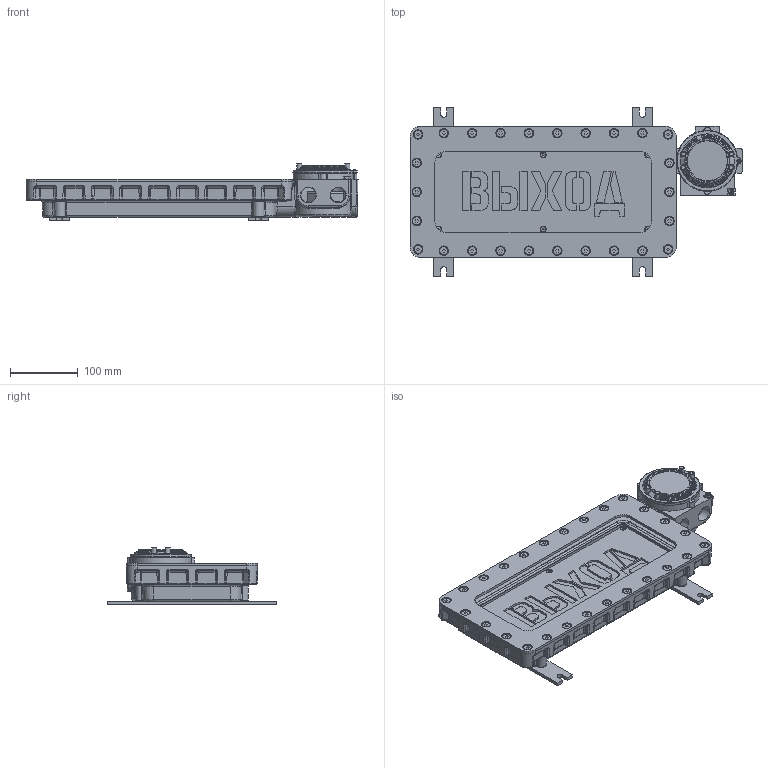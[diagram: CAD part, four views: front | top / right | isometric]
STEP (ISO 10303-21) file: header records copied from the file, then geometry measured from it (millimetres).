
FILE_DESCRIPTION((''),'2;1');
FILE_NAME('C:\Users\L.A.Ronzhin\Desktop\Новая папка (3)\ТЗ 40076\ПГС-ИТ\ПГС-ИТ35-ВЫХОД-Б-З_220AC.stp','2019-04-10T14:38:53',('L.A.Ronzhin'),(''),'Autodesk Inventor 2012','Autodesk Inventor 2012','');
FILE_SCHEMA(('CONFIG_CONTROL_DESIGN'));
Length unit declared in the file: millimetre
Products named in the file (1): ПГС-ИТ35-ВЫХОД-Б-З_220AC_Внешний контур_1
Bounding box: 491.39 x 250 x 85 mm (x, y, z)
Surface area: 919650 mm2 (no closed solid volume)
Topology: 0 solids, 67 shells, 4643 faces, 11465 edges, 7271 vertices
Faces by surface type: plane 2237, bspline 1114, cylinder 745, cone 305, torus 122, sphere 120
Full cylindrical faces by diameter (mm): 0.8 x8, 1.2 x12, 1.4 x12, 3.2 x7, 3.4 x8, 3.65 x2, 4 x9, 4.1 x5, 4.5 x30, 4.9 x26, 5 x6, 6 x28, 6.6 x4, 6.9 x2, 7 x26, 8 x10, 9 x4, 12 x26, 16 x4, 18 x2, 22.6 x3, 77 x1, 77.8 x1, 80 x1, 83 x1
Entity records: 151709 total; most frequent: CARTESIAN_POINT 48416, ORIENTED_EDGE 21702, DIRECTION 17390, EDGE_CURVE 10851, VERTEX_POINT 7142, VECTOR 5978, LINE 5978, AXIS2_PLACEMENT_3D 5706
